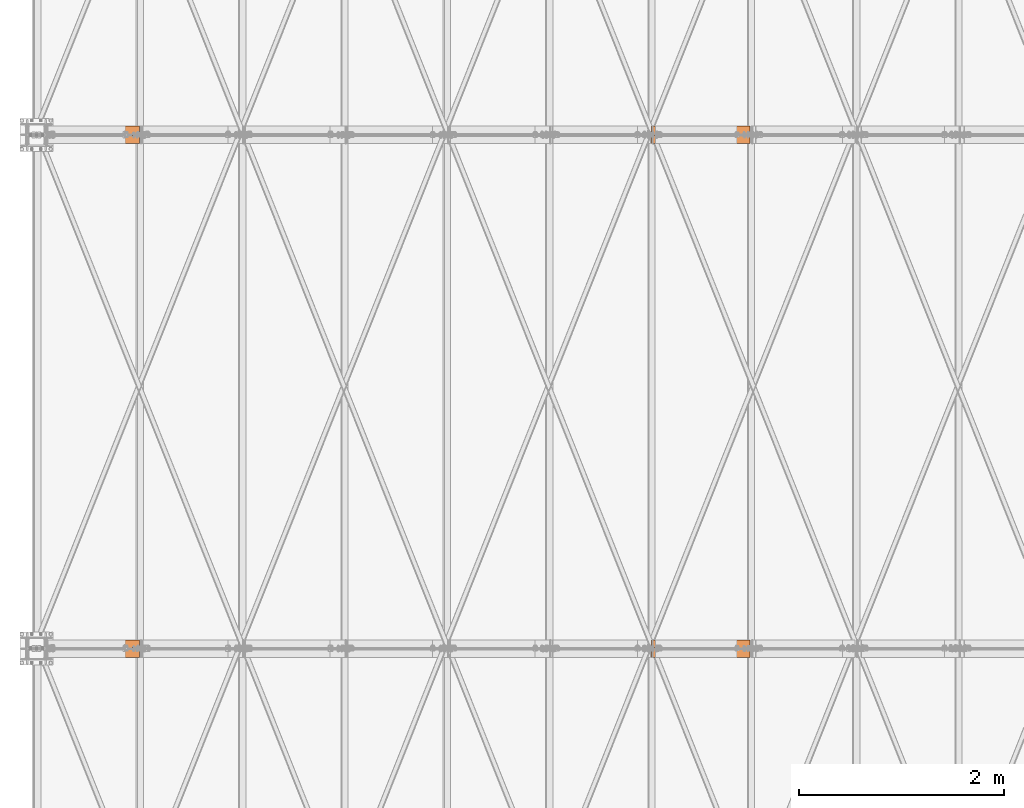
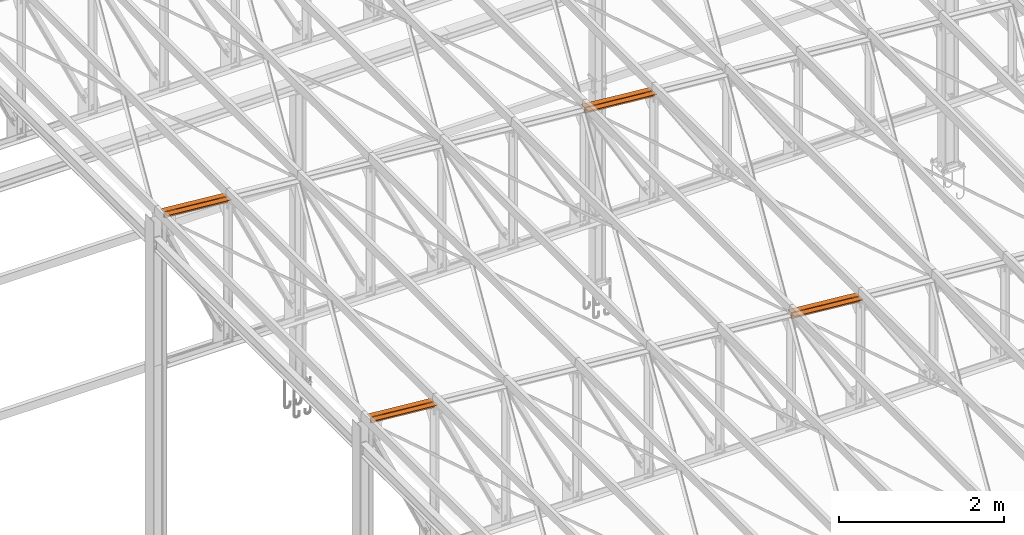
# One storey, part 248 of 251: 8 proxies.
"""IFC4 building model written with IfcOpenShell, lengths in metres."""

from ifc_helpers import new_model, si_unit, frame, origin_with_axes, origin_2d_with_axis, place, context, project, spatial, polyline, i_section, outline, extrude, material, material_profile, profile_set, profile_usage, type_object, element, save


model = new_model("IFC4")

# Units and contexts
model_context = context("Model", 3, precision=1e-05, world=origin_with_axes())
ifc_project = project(units=[si_unit("LENGTHUNIT", "METRE"), si_unit("AREAUNIT", "SQUARE_METRE"), si_unit("VOLUMEUNIT", "CUBIC_METRE"), si_unit("MASSUNIT", "GRAM", prefix="KILO"), si_unit("TIMEUNIT", "SECOND"), si_unit("PLANEANGLEUNIT", "RADIAN"), si_unit("SOLIDANGLEUNIT", "STERADIAN"), si_unit("THERMODYNAMICTEMPERATUREUNIT", "DEGREE_CELSIUS")], contexts=[model_context])

# Site, building, storey
placement_1 = place(None, origin_with_axes())
site = spatial("IfcSite", under=ifc_project, at=placement_1, Name="Italia", CompositionType="ELEMENT")
building = spatial("IfcBuilding", under=site, at=placement_1, Name="Deposito", CompositionType="ELEMENT")
storey = spatial("IfcBuildingStorey", under=building, at=placement_1, Name="Storey 0", CompositionType="ELEMENT", Elevation=0.0)

# Proxies
ifc_material = material(Name="Acciaio", Category="Acciaio")
ifc_material_profile = material_profile(ifc_material, i_section(OverallWidth=0.2, OverallDepth=0.19, WebThickness=0.006, FlangeThickness=0.01, FilletRadius=0.018, at=origin_2d_with_axis()), Name="7 PILASTRO HEA200")
ifc_profile_set = profile_set([ifc_material_profile])
ifc_profile_usage_1 = profile_usage(ifc_profile_set, cardinal=2)
member_type_1 = type_object("IfcMemberType", Name="5 2L80x8", PredefinedType="MEMBER", material=ifc_profile_usage_1)
placement_2 = place(placement_1, origin_with_axes())
proxy_1_placement = place(placement_2, origin_with_axes())
element("IfcBuildingElementProxy", 1, at=proxy_1_placement, inside=storey, type_object=member_type_1, Name="230073", context=model_context, shape_type="SweptSolid", body=[
    extrude(outline(polyline([(0.0, 0.0), (0.0799999, 0.0), (0.0799999, -0.0079999), (0.00799942, -0.0079999), (0.00799942, -0.0799999), (0.0, -0.0799999), (0.0, 0.0)])), frame((12.0375, 10.005, 6.71922), z_axis=(0.995984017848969, 0.0, -0.089531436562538), x_axis=(0.0, 1.0, 0.0)), (0.0, 0.0, 1.0), 0.963416),
])
ifc_profile_usage_2 = profile_usage(ifc_profile_set, cardinal=2)
member_type_2 = type_object("IfcMemberType", Name="5 2L80x8", PredefinedType="MEMBER", material=ifc_profile_usage_2)
proxy_2_placement = place(placement_2, origin_with_axes())
element("IfcBuildingElementProxy", 2, at=proxy_2_placement, inside=storey, type_object=member_type_2, Name="230073", context=model_context, shape_type="SweptSolid", body=[
    extrude(outline(polyline([(0.0, 0.0), (-0.00799942, 0.0), (-0.00799942, 0.072), (-0.0799999, 0.072), (-0.0799999, 0.0799999), (0.0, 0.0799999), (0.0, 0.0)])), frame((12.0303, 9.995, 6.63954), z_axis=(0.995984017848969, 0.0, -0.089531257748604), x_axis=(0.0, 1.0, 0.0)), (0.0, 0.0, 1.0), 0.963418),
])
ifc_profile_usage_3 = profile_usage(ifc_profile_set, cardinal=2)
member_type_3 = type_object("IfcMemberType", Name="5 2L80x8", PredefinedType="MEMBER", material=ifc_profile_usage_3)
proxy_3_placement = place(placement_2, origin_with_axes())
element("IfcBuildingElementProxy", 3, at=proxy_3_placement, inside=storey, type_object=member_type_3, Name="230073", context=model_context, shape_type="SweptSolid", body=[
    extrude(outline(polyline([(0.0, 0.0), (0.0799999, 0.0), (0.0799999, -0.0079999), (0.00799942, -0.0079999), (0.00799942, -0.0799999), (0.0, -0.0799999), (0.0, 0.0)])), frame((6.162, 10.005, 7.23302), z_axis=(0.996219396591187, 0.0, -0.086873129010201), x_axis=(0.0, 1.0, 0.0)), (0.0, 0.0, 1.0), 0.892801),
])
ifc_profile_usage_4 = profile_usage(ifc_profile_set, cardinal=2)
member_type_4 = type_object("IfcMemberType", Name="5 2L80x8", PredefinedType="MEMBER", material=ifc_profile_usage_4)
proxy_4_placement = place(placement_2, origin_with_axes())
element("IfcBuildingElementProxy", 4, at=proxy_4_placement, inside=storey, type_object=member_type_4, Name="230073", context=model_context, shape_type="SweptSolid", body=[
    extrude(outline(polyline([(0.0, 0.0), (-0.00799942, 0.0), (-0.00799942, 0.0719995), (-0.0799999, 0.0719995), (-0.0799999, 0.0799999), (0.0, 0.0799999), (0.0, 0.0)])), frame((6.15505, 9.995, 7.15332), z_axis=(0.996219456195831, 0.0, -0.086872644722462), x_axis=(0.0, 1.0, 0.0)), (0.0, 0.0, 1.0), 0.892801),
])
ifc_profile_usage_5 = profile_usage(ifc_profile_set, cardinal=2)
member_type_5 = type_object("IfcMemberType", Name="5 2L80x8", PredefinedType="MEMBER", material=ifc_profile_usage_5)
proxy_5_placement = place(placement_2, origin_with_axes())
element("IfcBuildingElementProxy", 5, at=proxy_5_placement, inside=storey, type_object=member_type_5, Name="230074", context=model_context, shape_type="SweptSolid", body=[
    extrude(outline(polyline([(0.0, 0.0), (0.0799999, 0.0), (0.0799999, -0.0079999), (0.00799942, -0.0079999), (0.00799942, -0.0799999), (0.0, -0.0799999), (0.0, 0.0)])), frame((12.0375, 15.005, 6.71922), z_axis=(0.995984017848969, 0.0, -0.089531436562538), x_axis=(0.0, 1.0, 0.0)), (0.0, 0.0, 1.0), 0.963416),
])
ifc_profile_usage_6 = profile_usage(ifc_profile_set, cardinal=2)
member_type_6 = type_object("IfcMemberType", Name="5 2L80x8", PredefinedType="MEMBER", material=ifc_profile_usage_6)
proxy_6_placement = place(placement_2, origin_with_axes())
element("IfcBuildingElementProxy", 6, at=proxy_6_placement, inside=storey, type_object=member_type_6, Name="230074", context=model_context, shape_type="SweptSolid", body=[
    extrude(outline(polyline([(0.0, 0.0), (-0.00799942, 0.0), (-0.00799942, 0.072), (-0.0799999, 0.072), (-0.0799999, 0.0799999), (0.0, 0.0799999), (0.0, 0.0)])), frame((12.0303, 14.995, 6.63954), z_axis=(0.995984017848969, 0.0, -0.089531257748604), x_axis=(0.0, 1.0, 0.0)), (0.0, 0.0, 1.0), 0.963418),
])
ifc_profile_usage_7 = profile_usage(ifc_profile_set, cardinal=2)
member_type_7 = type_object("IfcMemberType", Name="5 2L80x8", PredefinedType="MEMBER", material=ifc_profile_usage_7)
proxy_7_placement = place(placement_2, origin_with_axes())
element("IfcBuildingElementProxy", 7, at=proxy_7_placement, inside=storey, type_object=member_type_7, Name="230074", context=model_context, shape_type="SweptSolid", body=[
    extrude(outline(polyline([(0.0, 0.0), (0.0799999, 0.0), (0.0799999, -0.0079999), (0.00799942, -0.0079999), (0.00799942, -0.0799999), (0.0, -0.0799999), (0.0, 0.0)])), frame((6.162, 15.005, 7.23302), z_axis=(0.996219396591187, 0.0, -0.086873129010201), x_axis=(0.0, 1.0, 0.0)), (0.0, 0.0, 1.0), 0.892801),
])
ifc_profile_usage_8 = profile_usage(ifc_profile_set, cardinal=2)
member_type_8 = type_object("IfcMemberType", Name="5 2L80x8", PredefinedType="MEMBER", material=ifc_profile_usage_8)
proxy_8_placement = place(placement_2, origin_with_axes())
element("IfcBuildingElementProxy", 8, at=proxy_8_placement, inside=storey, type_object=member_type_8, Name="230074", context=model_context, shape_type="SweptSolid", body=[
    extrude(outline(polyline([(0.0, 0.0), (-0.00799942, 0.0), (-0.00799942, 0.0719995), (-0.0799999, 0.0719995), (-0.0799999, 0.0799999), (0.0, 0.0799999), (0.0, 0.0)])), frame((6.15505, 14.995, 7.15332), z_axis=(0.996219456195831, 0.0, -0.086872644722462), x_axis=(0.0, 1.0, 0.0)), (0.0, 0.0, 1.0), 0.892801),
])

save(model, "model.ifc")
